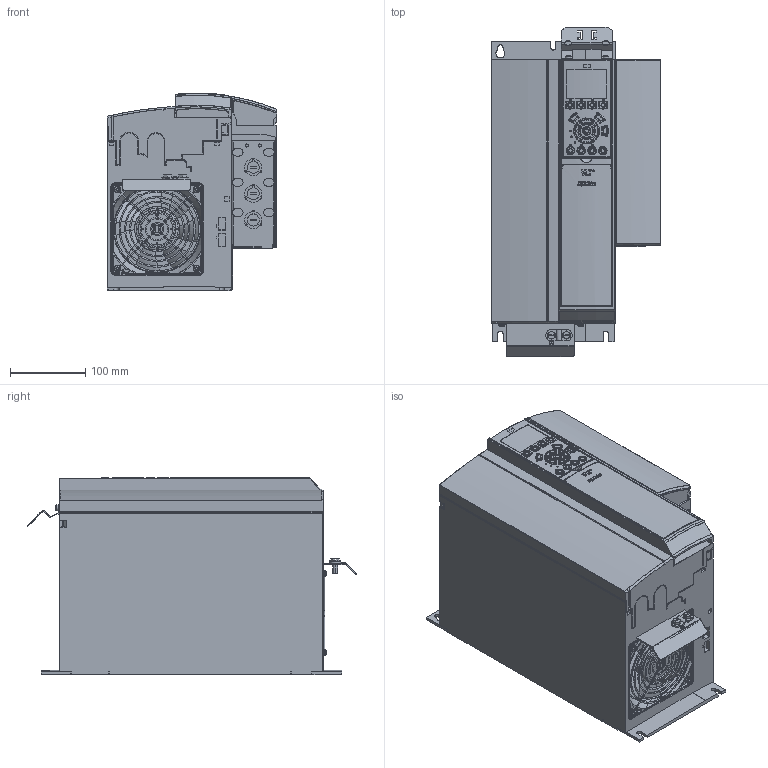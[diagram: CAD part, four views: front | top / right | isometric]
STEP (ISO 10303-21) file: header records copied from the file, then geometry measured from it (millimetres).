
FILE_DESCRIPTION((''),'2;1');
FILE_NAME('DANFOSS-FC200-B3-IP20-ABC-113','2007-06-14T',('Naushad.pm'),('dan Drives A/S'),'PRO/ENGINEER BY PARAMETRIC TECHNOLOGY CORPORATION, 2006200','PRO/ENGINEER BY PARAMETRIC TECHNOLOGY CORPORATION, 2006200','');
FILE_SCHEMA(('CONFIG_CONTROL_DESIGN', 'GEOMETRIC_VALIDATION_PROPERTIES_MIM'));
Length unit declared in the file: millimetre
Products named in the file (1): DANFOSS-FC200-B3-IP20-ABC-113
Bounding box: 225.68 x 437.49 x 262.5 mm (x, y, z)
Volume: 16827462.9 mm3; surface area: 660423.9 mm2
Topology: 2 solids, 19 shells, 4414 faces, 11006 edges, 6686 vertices
Faces by surface type: cylinder 1602, plane 1361, bspline 596, torus 494, sphere 189, cone 95, extrusion 76, revolution 1
Entity records: 216939 total; most frequent: CARTESIAN_POINT 67934, ORIENTED_EDGE 21984, DIRECTION 19612, PRESENTATION_STYLE_ASSIGNMENT 12785, STYLED_ITEM 11179, CURVE_STYLE 11000, EDGE_CURVE 10992, AXIS2_PLACEMENT_3D 7229
